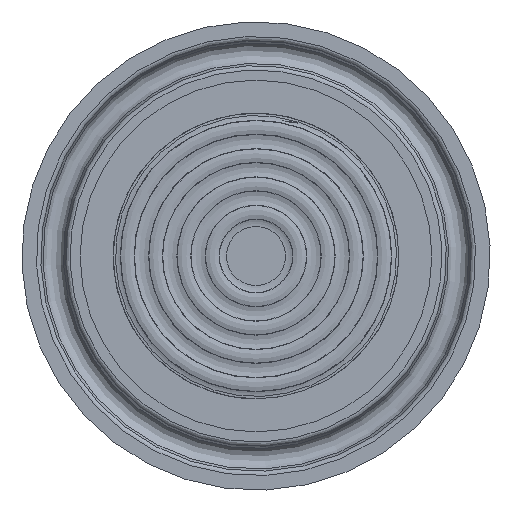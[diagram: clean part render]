
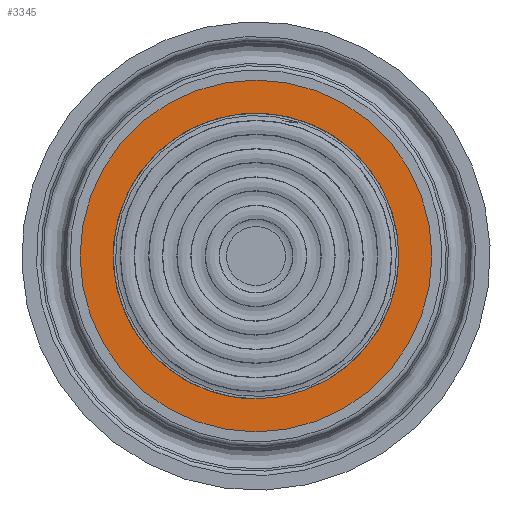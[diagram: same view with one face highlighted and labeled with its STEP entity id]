
A CAD part, front view. The second image highlights one B-rep face of the part: STEP entity #3345.
In plain terms, the highlighted planar face has unit normal (0, -1, 0).
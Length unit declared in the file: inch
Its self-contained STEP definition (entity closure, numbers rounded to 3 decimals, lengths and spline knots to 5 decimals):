
#540=FACE_BOUND('',#889,.T.);
#659=FACE_OUTER_BOUND('',#888,.T.);
#888=EDGE_LOOP('',(#2555));
#889=EDGE_LOOP('',(#2556));
#1176=CIRCLE('',#3724,0.605);
#1177=CIRCLE('',#3726,0.745);
#1454=VERTEX_POINT('',#6828);
#1455=VERTEX_POINT('',#6832);
#1847=EDGE_CURVE('',#1454,#1454,#1176,.T.);
#1848=EDGE_CURVE('',#1455,#1455,#1177,.T.);
#2555=ORIENTED_EDGE('',*,*,#1848,.F.);
#2556=ORIENTED_EDGE('',*,*,#1847,.T.);
#3125=PLANE('',#3725);
#3345=ADVANCED_FACE('',(#659,#540),#3125,.T.);
#3724=AXIS2_PLACEMENT_3D('',#6830,#4490,#4491);
#3725=AXIS2_PLACEMENT_3D('',#6831,#4492,#4493);
#3726=AXIS2_PLACEMENT_3D('',#6833,#4494,#4495);
#4490=DIRECTION('center_axis',(0.,1.,0.));
#4491=DIRECTION('ref_axis',(1.,0.,0.));
#4492=DIRECTION('center_axis',(0.,-1.,0.));
#4493=DIRECTION('ref_axis',(0.,0.,-1.));
#4494=DIRECTION('center_axis',(0.,1.,0.));
#4495=DIRECTION('ref_axis',(1.,0.,0.));
#6828=CARTESIAN_POINT('',(-1.97406,-2.16501,-0.01576));
#6830=CARTESIAN_POINT('Origin',(-1.97406,-2.16501,0.58924));
#6831=CARTESIAN_POINT('Origin',(-1.97406,-2.16501,1.33424));
#6832=CARTESIAN_POINT('',(-1.97406,-2.16501,-0.15576));
#6833=CARTESIAN_POINT('Origin',(-1.97406,-2.16501,0.58924));
